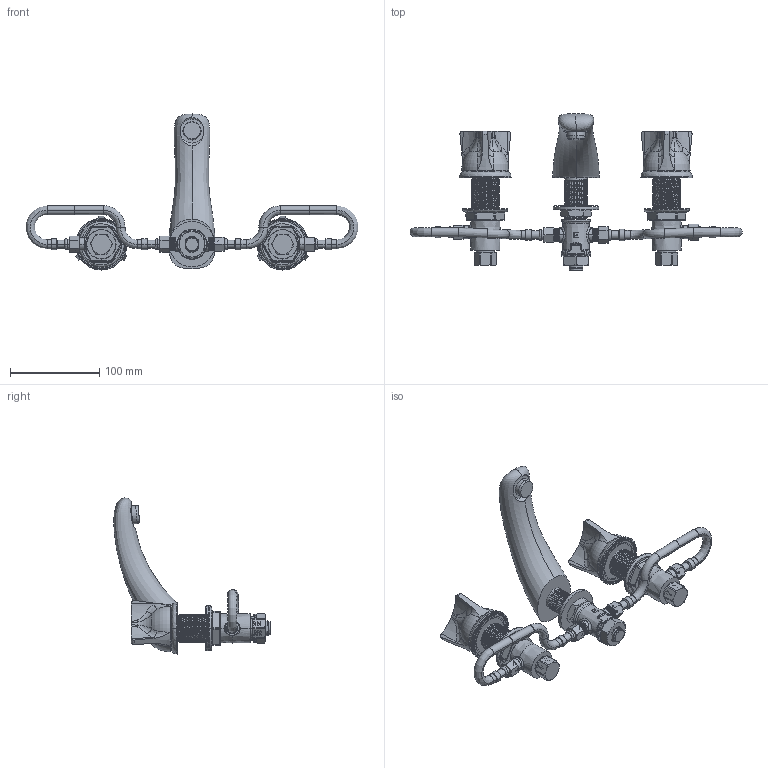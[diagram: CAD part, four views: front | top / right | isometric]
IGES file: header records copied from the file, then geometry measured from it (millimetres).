
Start section:  PTC IGES file: 404-HZE70-950ABCP.igs
Global section: file name: 404-HZE70-950ABCP.igs; native system: Creo Parametric by PTC Inc.; preprocessor: 2017260; author: usch_engrender; organization: Unknown; date: 20180531.154714; units: inch
Bounding box: 371.99 x 175.15 x 174.81 mm (x, y, z)
Surface area: 142862.9 mm2 (no closed solid volume)
Topology: 0 solids, 80 shells, 1124 faces, 3037 edges, 1983 vertices
Faces by surface type: revolution 700, bspline 424
